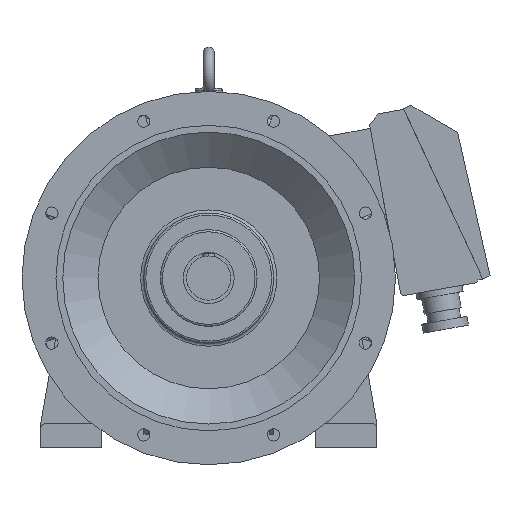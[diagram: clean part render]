
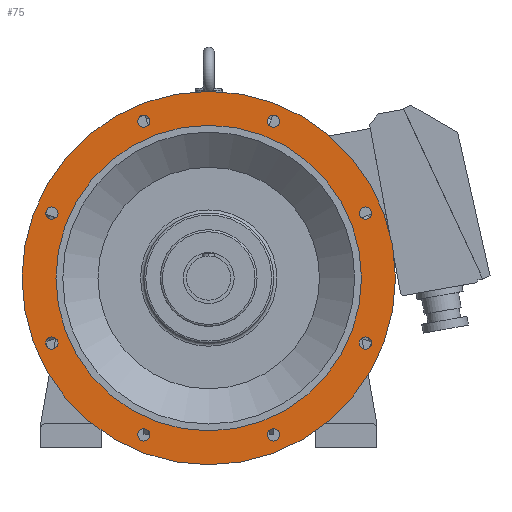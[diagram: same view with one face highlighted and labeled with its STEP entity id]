
A CAD part, front view. The second image highlights one B-rep face of the part: STEP entity #75.
In plain terms, the highlighted planar face has unit normal (0, -1, 0).
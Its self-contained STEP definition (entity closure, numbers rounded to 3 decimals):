
#75 = ADVANCED_FACE( '', ( #545, #546, #547, #548, #549, #550, #551, #552, #553, #554 ), #555, .T. );
#545 = FACE_BOUND( '', #1581, .T. );
#546 = FACE_BOUND( '', #1582, .T. );
#547 = FACE_BOUND( '', #1583, .T. );
#548 = FACE_BOUND( '', #1584, .T. );
#549 = FACE_OUTER_BOUND( '', #1585, .T. );
#550 = FACE_BOUND( '', #1586, .T. );
#551 = FACE_BOUND( '', #1587, .T. );
#552 = FACE_BOUND( '', #1588, .T. );
#553 = FACE_BOUND( '', #1589, .T. );
#554 = FACE_BOUND( '', #1590, .T. );
#555 = PLANE( '', #1591 );
#1581 = EDGE_LOOP( '', ( #2651 ) );
#1582 = EDGE_LOOP( '', ( #2652 ) );
#1583 = EDGE_LOOP( '', ( #2653 ) );
#1584 = EDGE_LOOP( '', ( #2654 ) );
#1585 = EDGE_LOOP( '', ( #2655 ) );
#1586 = EDGE_LOOP( '', ( #2656 ) );
#1587 = EDGE_LOOP( '', ( #2657 ) );
#1588 = EDGE_LOOP( '', ( #2658 ) );
#1589 = EDGE_LOOP( '', ( #2659 ) );
#1590 = EDGE_LOOP( '', ( #2660 ) );
#1591 = AXIS2_PLACEMENT_3D( '', #2661, #2662, #2663 );
#2651 = ORIENTED_EDGE( '', *, *, #6577, .T. );
#2652 = ORIENTED_EDGE( '', *, *, #6578, .T. );
#2653 = ORIENTED_EDGE( '', *, *, #6579, .T. );
#2654 = ORIENTED_EDGE( '', *, *, #6580, .T. );
#2655 = ORIENTED_EDGE( '', *, *, #6581, .T. );
#2656 = ORIENTED_EDGE( '', *, *, #6582, .F. );
#2657 = ORIENTED_EDGE( '', *, *, #6583, .T. );
#2658 = ORIENTED_EDGE( '', *, *, #6584, .T. );
#2659 = ORIENTED_EDGE( '', *, *, #6585, .T. );
#2660 = ORIENTED_EDGE( '', *, *, #6586, .T. );
#2661 = CARTESIAN_POINT( '', ( 0., 140., 225. ) );
#2662 = DIRECTION( '', ( 0., -1., 0. ) );
#2663 = DIRECTION( '', ( 1., 0., 0. ) );
#6577 = EDGE_CURVE( '', #7838, #7838, #7839, .T. );
#6578 = EDGE_CURVE( '', #7840, #7840, #7841, .T. );
#6579 = EDGE_CURVE( '', #7842, #7842, #7843, .T. );
#6580 = EDGE_CURVE( '', #7844, #7844, #7845, .T. );
#6581 = EDGE_CURVE( '', #7846, #7846, #7847, .T. );
#6582 = EDGE_CURVE( '', #7848, #7848, #7849, .T. );
#6583 = EDGE_CURVE( '', #7850, #7850, #7851, .T. );
#6584 = EDGE_CURVE( '', #7852, #7852, #7853, .T. );
#6585 = EDGE_CURVE( '', #7854, #7854, #7855, .T. );
#6586 = EDGE_CURVE( '', #7856, #7856, #7857, .T. );
#7838 = VERTEX_POINT( '', #9967 );
#7839 = CIRCLE( '', #9968, 9. );
#7840 = VERTEX_POINT( '', #9969 );
#7841 = CIRCLE( '', #9970, 9. );
#7842 = VERTEX_POINT( '', #9971 );
#7843 = CIRCLE( '', #9972, 9. );
#7844 = VERTEX_POINT( '', #9973 );
#7845 = CIRCLE( '', #9974, 9. );
#7846 = VERTEX_POINT( '', #9975 );
#7847 = CIRCLE( '', #9976, 275. );
#7848 = VERTEX_POINT( '', #9977 );
#7849 = CIRCLE( '', #9978, 225. );
#7850 = VERTEX_POINT( '', #9979 );
#7851 = CIRCLE( '', #9980, 9. );
#7852 = VERTEX_POINT( '', #9981 );
#7853 = CIRCLE( '', #9982, 9. );
#7854 = VERTEX_POINT( '', #9983 );
#7855 = CIRCLE( '', #9984, 9. );
#7856 = VERTEX_POINT( '', #9985 );
#7857 = CIRCLE( '', #9986, 9. );
#9967 = CARTESIAN_POINT( '', ( 104.671, 140., -230.97 ) );
#9968 = AXIS2_PLACEMENT_3D( '', #13853, #13854, #13855 );
#9969 = CARTESIAN_POINT( '', ( -221.97, 140., -95.671 ) );
#9970 = AXIS2_PLACEMENT_3D( '', #13856, #13857, #13858 );
#9971 = CARTESIAN_POINT( '', ( -86.671, 140., 230.97 ) );
#9972 = AXIS2_PLACEMENT_3D( '', #13859, #13860, #13861 );
#9973 = CARTESIAN_POINT( '', ( 239.97, 140., 95.671 ) );
#9974 = AXIS2_PLACEMENT_3D( '', #13862, #13863, #13864 );
#9975 = CARTESIAN_POINT( '', ( 275., 140., 0. ) );
#9976 = AXIS2_PLACEMENT_3D( '', #13865, #13866, #13867 );
#9977 = CARTESIAN_POINT( '', ( 225., 140., 0. ) );
#9978 = AXIS2_PLACEMENT_3D( '', #13868, #13869, #13870 );
#9979 = CARTESIAN_POINT( '', ( 104.671, 140., 230.97 ) );
#9980 = AXIS2_PLACEMENT_3D( '', #13871, #13872, #13873 );
#9981 = CARTESIAN_POINT( '', ( -221.97, 140., 95.671 ) );
#9982 = AXIS2_PLACEMENT_3D( '', #13874, #13875, #13876 );
#9983 = CARTESIAN_POINT( '', ( -86.671, 140., -230.97 ) );
#9984 = AXIS2_PLACEMENT_3D( '', #13877, #13878, #13879 );
#9985 = CARTESIAN_POINT( '', ( 239.97, 140., -95.671 ) );
#9986 = AXIS2_PLACEMENT_3D( '', #13880, #13881, #13882 );
#13853 = CARTESIAN_POINT( '', ( 95.671, 140., -230.97 ) );
#13854 = DIRECTION( '', ( 0., 1., 0. ) );
#13855 = DIRECTION( '', ( 1., 0., 0. ) );
#13856 = CARTESIAN_POINT( '', ( -230.97, 140., -95.671 ) );
#13857 = DIRECTION( '', ( 0., 1., 0. ) );
#13858 = DIRECTION( '', ( 1., 0., 0. ) );
#13859 = CARTESIAN_POINT( '', ( -95.671, 140., 230.97 ) );
#13860 = DIRECTION( '', ( 0., 1., 0. ) );
#13861 = DIRECTION( '', ( 1., 0., 0. ) );
#13862 = CARTESIAN_POINT( '', ( 230.97, 140., 95.671 ) );
#13863 = DIRECTION( '', ( 0., 1., 0. ) );
#13864 = DIRECTION( '', ( 1., 0., 0. ) );
#13865 = CARTESIAN_POINT( '', ( 0., 140., 0. ) );
#13866 = DIRECTION( '', ( 0., -1., 0. ) );
#13867 = DIRECTION( '', ( 1., 0., 0. ) );
#13868 = CARTESIAN_POINT( '', ( 0., 140., 0. ) );
#13869 = DIRECTION( '', ( 0., -1., 0. ) );
#13870 = DIRECTION( '', ( 1., 0., 0. ) );
#13871 = CARTESIAN_POINT( '', ( 95.671, 140., 230.97 ) );
#13872 = DIRECTION( '', ( 0., 1., 0. ) );
#13873 = DIRECTION( '', ( 1., 0., 0. ) );
#13874 = CARTESIAN_POINT( '', ( -230.97, 140., 95.671 ) );
#13875 = DIRECTION( '', ( 0., 1., 0. ) );
#13876 = DIRECTION( '', ( 1., 0., 0. ) );
#13877 = CARTESIAN_POINT( '', ( -95.671, 140., -230.97 ) );
#13878 = DIRECTION( '', ( 0., 1., 0. ) );
#13879 = DIRECTION( '', ( 1., 0., 0. ) );
#13880 = CARTESIAN_POINT( '', ( 230.97, 140., -95.671 ) );
#13881 = DIRECTION( '', ( 0., 1., 0. ) );
#13882 = DIRECTION( '', ( 1., 0., 0. ) );
